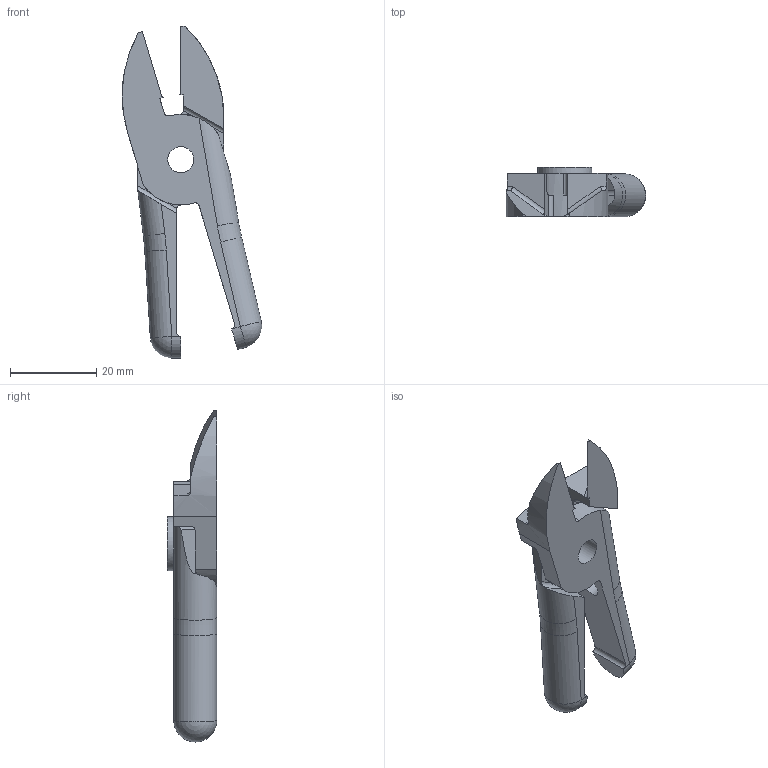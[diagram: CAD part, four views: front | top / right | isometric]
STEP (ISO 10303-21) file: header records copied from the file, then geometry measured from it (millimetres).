
FILE_DESCRIPTION(/* description */ (''),/* implementation_level */ '2;1');
FILE_NAME(/* name */ 'W:\Technik\Konstruktion\CAD-Daten\DJa\Vessel Schneidzangeneinsatz\NY25AJB\NY25AJB open.stp',/* time_stamp */ '2016-09-21T15:27:44+02:00',/* author */ ('DJansen'),/* organization */ (''),/* preprocessor_version */ 'ST-DEVELOPER v16.5',/* originating_system */ 'Autodesk Inventor 2017',/* authorisation */ '');
FILE_SCHEMA (('AUTOMOTIVE_DESIGN { 1 0 10303 214 3 1 1 }'));
Length unit declared in the file: millimetre
Products named in the file (1): NY25AJB Baugruppe
Bounding box: 32.37 x 11.5 x 77 mm (x, y, z)
Volume: 8904.2 mm3; surface area: 5050.5 mm2
Topology: 1 solids, 1 shells, 76 faces, 200 edges, 129 vertices
Faces by surface type: plane 43, cylinder 29, sphere 2, torus 2
Full cylindrical faces by diameter (mm): 5.5 x2, 6.05 x1, 7.1 x1, 12.5 x1
Entity records: 2412 total; most frequent: CARTESIAN_POINT 497, DIRECTION 408, ORIENTED_EDGE 386, EDGE_CURVE 193, AXIS2_PLACEMENT_3D 152, VERTEX_POINT 127, LINE 104, VECTOR 104
